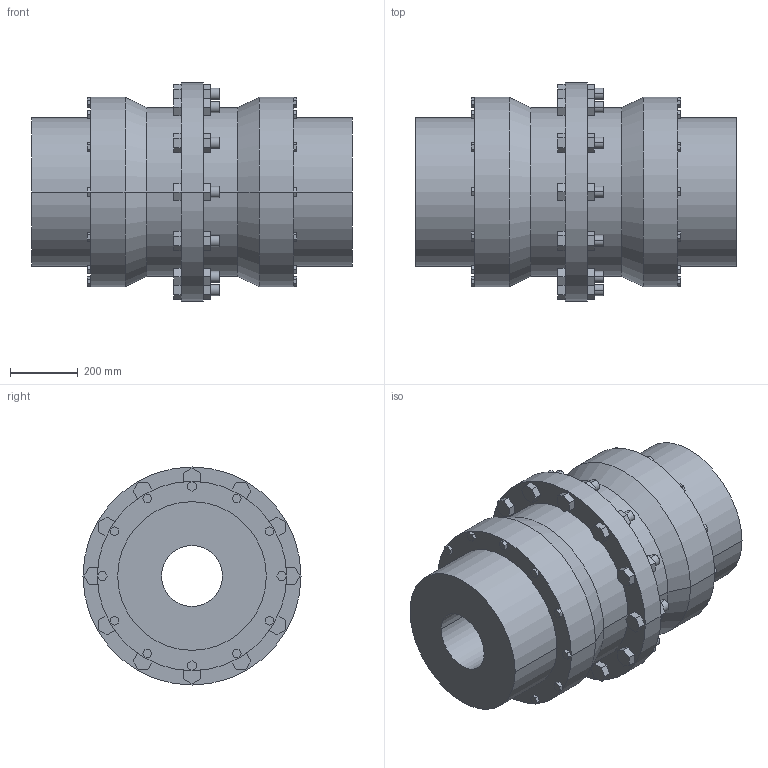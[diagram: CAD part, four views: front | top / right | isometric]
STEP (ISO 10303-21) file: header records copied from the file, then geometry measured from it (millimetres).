
FILE_DESCRIPTION((''),'2;1');
FILE_NAME('A19716300-0_ASM','2019-05-23T',('AB_Roschiwal'),('RENK AG'),'PRO/ENGINEER BY PARAMETRIC TECHNOLOGY CORPORATION, 2015440','PRO/ENGINEER BY PARAMETRIC TECHNOLOGY CORPORATION, 2015440','');
FILE_SCHEMA(('CONFIG_CONTROL_DESIGN'));
Length unit declared in the file: millimetre
Products named in the file (3): SBK265_GEHAEUSE; SBK265_NABE; A19716300-0_ASM
Assembly tree (3 placements, depth 2):
  A19716300-0_ASM
    SBK265_GEHAEUSE
    SBK265_NABE  x2
Bounding box: 949 x 645 x 645 mm (x, y, z)
Volume: 130443114.7 mm3; surface area: 4321036.6 mm2
Topology: 3 solids, 3 shells, 422 faces, 1036 edges, 688 vertices
Faces by surface type: plane 362, cylinder 56, cone 4
Entity records: 12052 total; most frequent: CARTESIAN_POINT 2100, ORIENTED_EDGE 2024, DIRECTION 1940, EDGE_CURVE 1012, VECTOR 916, LINE 916, VERTEX_POINT 672, AXIS2_PLACEMENT_3D 512
